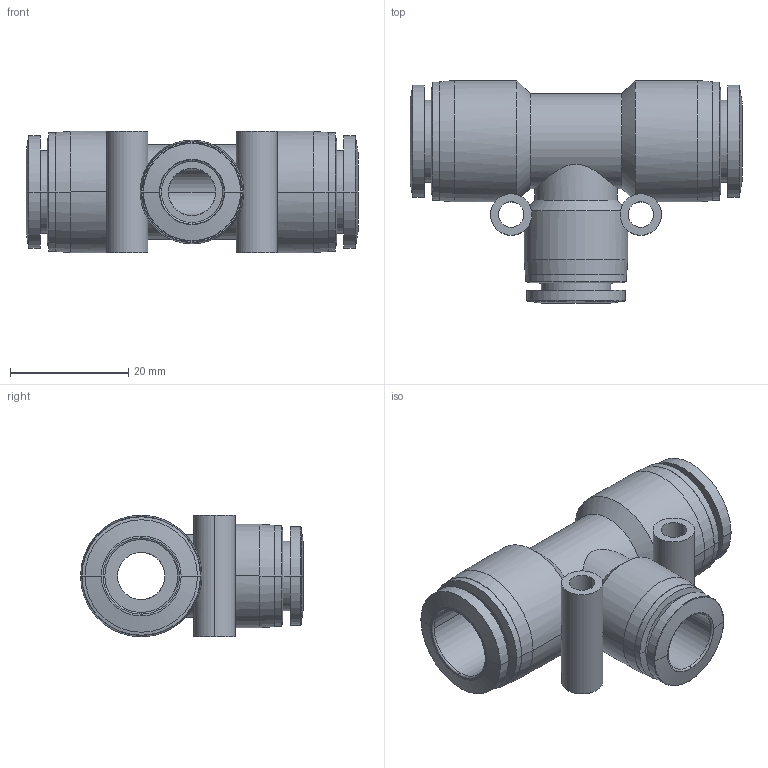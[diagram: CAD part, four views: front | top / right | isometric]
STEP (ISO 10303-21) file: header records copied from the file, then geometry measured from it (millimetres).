
FILE_DESCRIPTION (( 'STEP AP203' ), '1' );
FILE_NAME ('FRT10-12.STEP', '2020-05-12T19:25:19', ( '' ), ( '' ), 'SwSTEP 2.0', 'SolidWorks 2019', '' );
FILE_SCHEMA (( 'CONFIG_CONTROL_DESIGN' ));
Length unit declared in the file: millimetre
Products named in the file (1): FRT10-12
Bounding box: 56.1 x 37.65 x 20.5 mm (x, y, z)
Volume: 12698.6 mm3; surface area: 9640 mm2
Topology: 1 solids, 1 shells, 97 faces, 232 edges, 146 vertices
Faces by surface type: cylinder 46, cone 24, plane 19, bspline 6, torus 2
Entity records: 3776 total; most frequent: CARTESIAN_POINT 1405, DIRECTION 510, ORIENTED_EDGE 464, EDGE_CURVE 232, AXIS2_PLACEMENT_3D 218, VERTEX_POINT 146, CIRCLE 126, EDGE_LOOP 118
